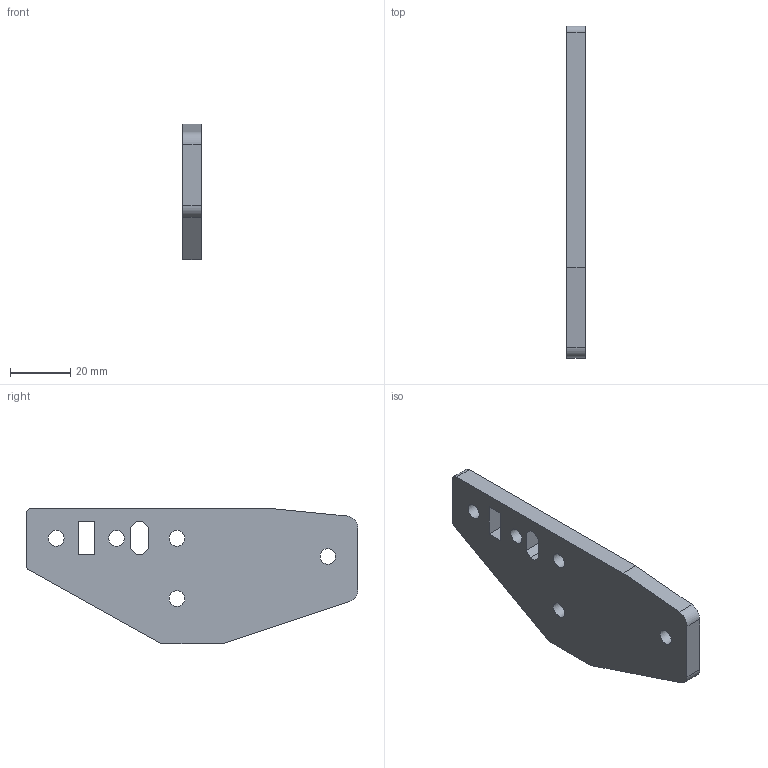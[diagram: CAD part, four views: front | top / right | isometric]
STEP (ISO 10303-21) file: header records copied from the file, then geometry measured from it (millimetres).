
FILE_DESCRIPTION(/* description */ ('STEP AP242 Edition 2','CAx-IF Rec.Pracs.---Representation and Presentation of Product Manufacturing Information (PMI)---4.0---2014-10-13','CAx-IF Rec.Pracs.---3D Tessellated Geometry---0.4---2014-09-14','2;1','CAx-IF Rec.Pracs.---User Defined Attributes---1.5---2016-08-15'),/* implementation_level */ '2;1');
FILE_NAME(/* name */ 'Final Build - leg',/* time_stamp */ '2026-08-31T23:26:10Z',/* author */ (''),/* organization */ (''),/* preprocessor_version */ 'ST-DEVELOPER v20',/* originating_system */ 'ONSHAPE BY PTC INC, 1.220',/* authorisation */ ' ');
FILE_SCHEMA (('AP242_MANAGED_MODEL_BASED_3D_ENGINEERING_MIM_LF { 1 0 10303 442 3 1 4 }'));
Length unit declared in the file: metre
Products named in the file (1): leg
Bounding box: 6 x 109.96 x 45 mm (x, y, z)
Volume: 22649.2 mm3; surface area: 10049.2 mm2
Topology: 1 solids, 1 shells, 30 faces, 84 edges, 56 vertices
Faces by surface type: plane 21, cylinder 9
Full cylindrical faces by diameter (mm): 5.2 x5
Entity records: 991 total; most frequent: CARTESIAN_POINT 166, DIRECTION 159, ORIENTED_EDGE 158, EDGE_CURVE 79, LINE 61, VECTOR 61, VERTEX_POINT 56, EDGE_LOOP 49
